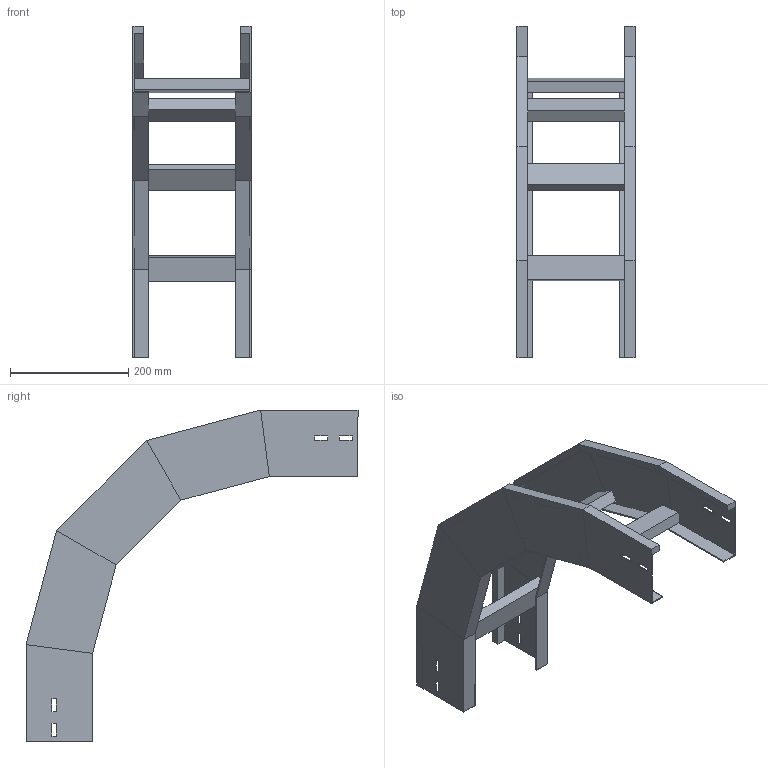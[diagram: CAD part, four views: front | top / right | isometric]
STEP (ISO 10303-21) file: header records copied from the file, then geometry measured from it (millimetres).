
FILE_DESCRIPTION (( 'STEP AP214' ), '1' );
FILE_NAME ('A2_33B3J200.step', '2025-02-21T15:03:29', ( '' ), ( '' ), 'SwSTEP 2.0', 'SolidWorks 2023', '' );
FILE_SCHEMA (( 'AUTOMOTIVE_DESIGN' ));
Length unit declared in the file: millimetre
Products named in the file (3): A2_33B3J200; LONGH.DISCESA_90°_H112.5_R300; TRAVERSINO_200
Assembly tree (6 placements, depth 2):
  A2_33B3J200
    LONGH.DISCESA_90°_H112.5_R300  x2
    TRAVERSINO_200  x4
Bounding box: 200 x 561.94 x 561.94 mm (x, y, z)
Volume: 1453074 mm3; surface area: 629739.5 mm2
Topology: 6 solids, 6 shells, 140 faces, 320 edges, 192 vertices
Faces by surface type: plane 140
Entity records: 1872 total; most frequent: CARTESIAN_POINT 309, ORIENTED_EDGE 296, DIRECTION 294, VECTOR 148, LINE 148, EDGE_CURVE 148, VERTEX_POINT 88, AXIS2_PLACEMENT_3D 73
